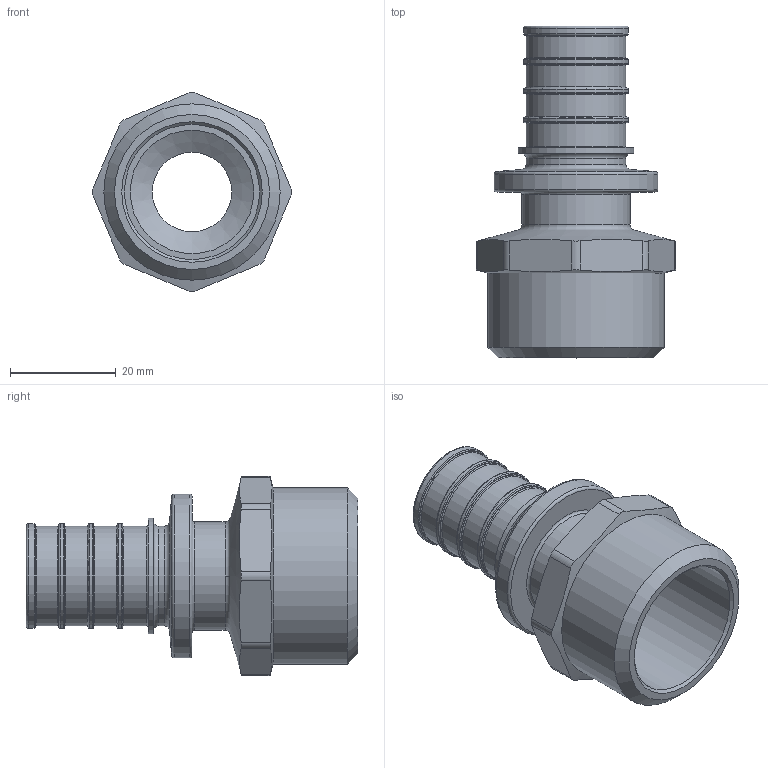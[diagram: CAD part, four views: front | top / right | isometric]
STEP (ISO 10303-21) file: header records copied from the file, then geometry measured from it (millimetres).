
FILE_DESCRIPTION(('STEP AP203'), '1');
FILE_NAME('ﾂﾐ.753137.010 - VTm.401.G.002506 ﾔ頸. 浯葢. G 1', '2024-01-23T13:00:55', ('IT'), ('VESTA'), 'C3D Converter', 'C3D Toolkit', '');
FILE_SCHEMA(('CONFIG_CONTROL_DESIGN'));
Length unit declared in the file: millimetre
Products named in the file (1): ВР.753137.010
Bounding box: 37.55 x 62.6 x 37.55 mm (x, y, z)
Volume: 16539.9 mm3; surface area: 10904.6 mm2
Topology: 1 solids, 1 shells, 74 faces, 153 edges, 92 vertices
Faces by surface type: cylinder 23, torus 23, plane 21, cone 7
Full cylindrical faces by diameter (mm): 15 x1, 18.8 x5, 19.8 x4, 20.4 x1, 21.8 x1, 25.5 x1, 30.9 x1, 33.249 x1
Entity records: 2768 total; most frequent: CARTESIAN_POINT 1356, DIRECTION 286, ORIENTED_EDGE 220, AXIS2_PLACEMENT_3D 135, EDGE_LOOP 130, EDGE_CURVE 110, VERTEX_POINT 92, FACE_OUTER_BOUND 82
